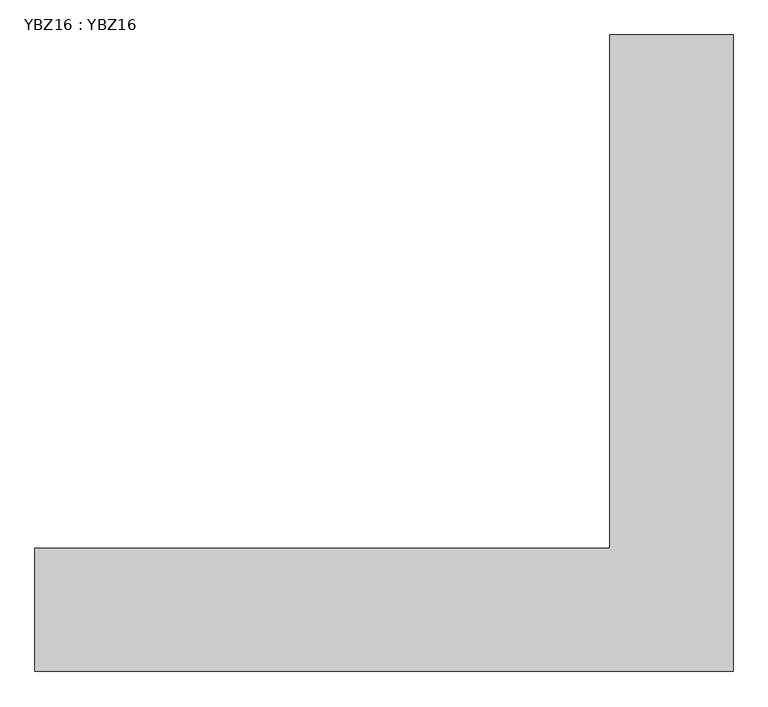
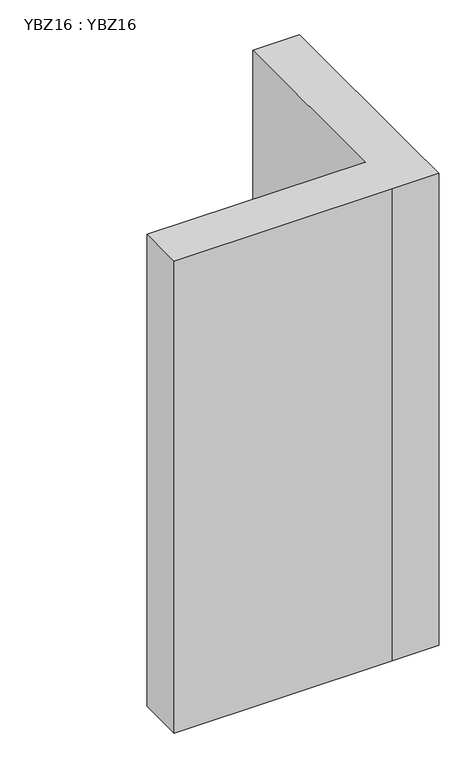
"""IFC4 building model written with IfcOpenShell, lengths in millimetres: column geometry, YBZ16 : YBZ16."""

from ifc_helpers import new_model, si_unit, origin, origin_with_axes, place, context, project, spatial, polyline, outline, extrude, source, transform, mapped, element, save


def ybz16_ybz16_aec5dbda(model_context):
    return source(origin(), model_context, "Body", "SweptSolid", [
        extrude(outline(polyline([(0.0, 1550.0), (0.0, 300.0), (0.0, 0.0), (-300.0, 0.0), (-1700.0, 0.0), (-1700.0, 300.0), (-300.0, 300.0), (-300.0, 1550.0), (0.0, 1550.0)])), origin_with_axes(), (0.0, 0.0, 1.0), 3200.0),
    ])


if __name__ == "__main__":
    model = new_model("IFC4")
    model_context = context("Model", 3, world=origin())
    ifc_project = project(units=[si_unit("LENGTHUNIT", "METRE", prefix="MILLI")], contexts=[model_context])
    site = spatial("IfcSite", under=ifc_project)
    building = spatial("IfcBuilding", under=site)
    placement = place(None, origin())
    ybz16_ybz16_shape = ybz16_ybz16_aec5dbda(model_context)
    element("IfcColumn", 1, ObjectType="YBZ16 : YBZ16", at=placement, inside=building, context=model_context, shape_type="MappedRepresentation", body=[
        mapped(ybz16_ybz16_shape, transform((0.0, 0.0, 0.0), x_axis=(1.0, 0.0, 0.0), y_axis=(0.0, 1.0, 0.0), z_axis=(0.0, 0.0, 1.0))),
    ])
    save(model, "model.ifc")
